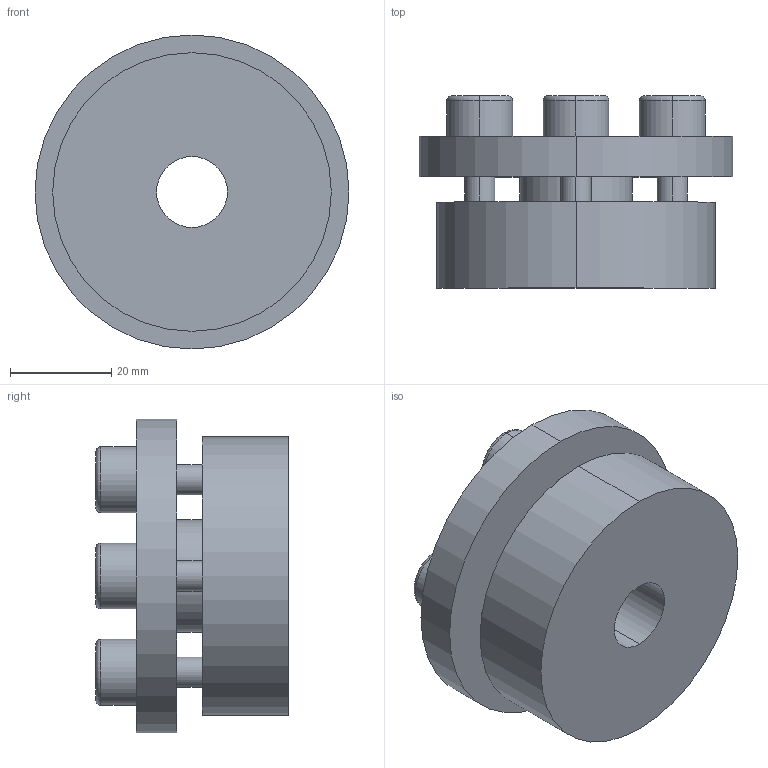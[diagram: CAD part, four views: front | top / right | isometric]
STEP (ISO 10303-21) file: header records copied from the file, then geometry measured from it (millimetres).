
FILE_DESCRIPTION (( 'STEP AP203' ), '1' );
FILE_NAME ('PL-H4 14-55.STEP', '2021-10-23T01:17:47', ( '' ), ( '' ), 'SwSTEP 2.0', 'SolidWorks 2018', '' );
FILE_SCHEMA (( 'CONFIG_CONTROL_DESIGN' ));
Length unit declared in the file: millimetre
Products named in the file (1): PL-H4 14-55
Bounding box: 62 x 38 x 62 mm (x, y, z)
Volume: 66139.1 mm3; surface area: 17589.9 mm2
Topology: 1 solids, 1 shells, 68 faces, 160 edges, 104 vertices
Faces by surface type: plane 36, cylinder 24, torus 8
Entity records: 2061 total; most frequent: DIRECTION 362, CARTESIAN_POINT 333, ORIENTED_EDGE 320, EDGE_CURVE 160, AXIS2_PLACEMENT_3D 133, VERTEX_POINT 104, VECTOR 96, LINE 96
